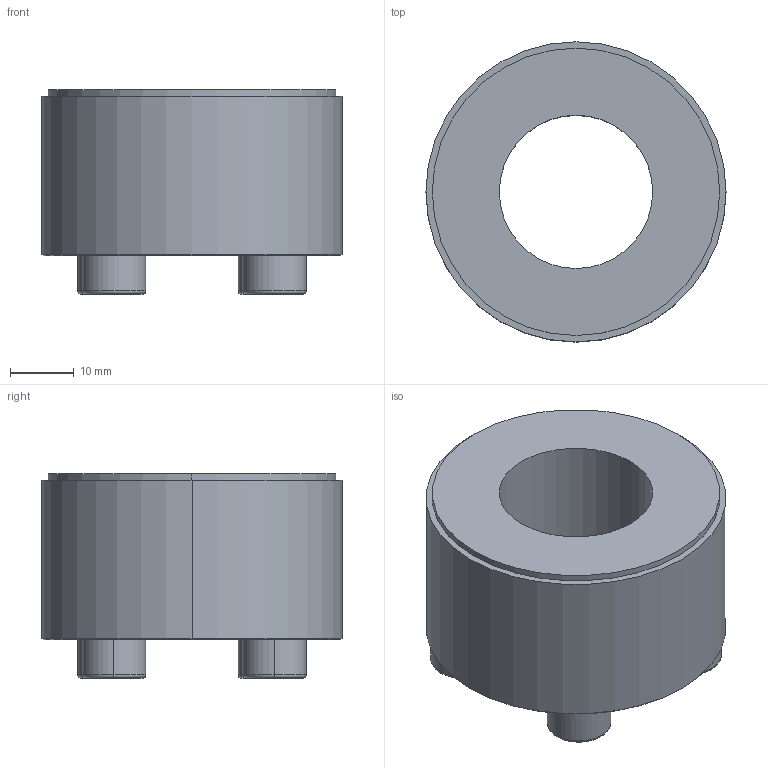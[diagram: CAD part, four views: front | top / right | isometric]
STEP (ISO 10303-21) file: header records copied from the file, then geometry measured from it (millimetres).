
FILE_DESCRIPTION (( 'STEP AP203' ), '1' );
FILE_NAME ('PL-B 24-47.STEP', '2021-10-22T07:46:34', ( '' ), ( '' ), 'SwSTEP 2.0', 'SolidWorks 2018', '' );
FILE_SCHEMA (( 'CONFIG_CONTROL_DESIGN' ));
Length unit declared in the file: millimetre
Products named in the file (1): PL-B 24-47
Bounding box: 47 x 47 x 32 mm (x, y, z)
Volume: 34816 mm3; surface area: 9266.5 mm2
Topology: 1 solids, 1 shells, 61 faces, 138 edges, 88 vertices
Faces by surface type: plane 35, cylinder 14, torus 8, cone 4
Entity records: 1785 total; most frequent: DIRECTION 310, CARTESIAN_POINT 288, ORIENTED_EDGE 276, EDGE_CURVE 138, AXIS2_PLACEMENT_3D 110, VECTOR 90, LINE 90, VERTEX_POINT 88
